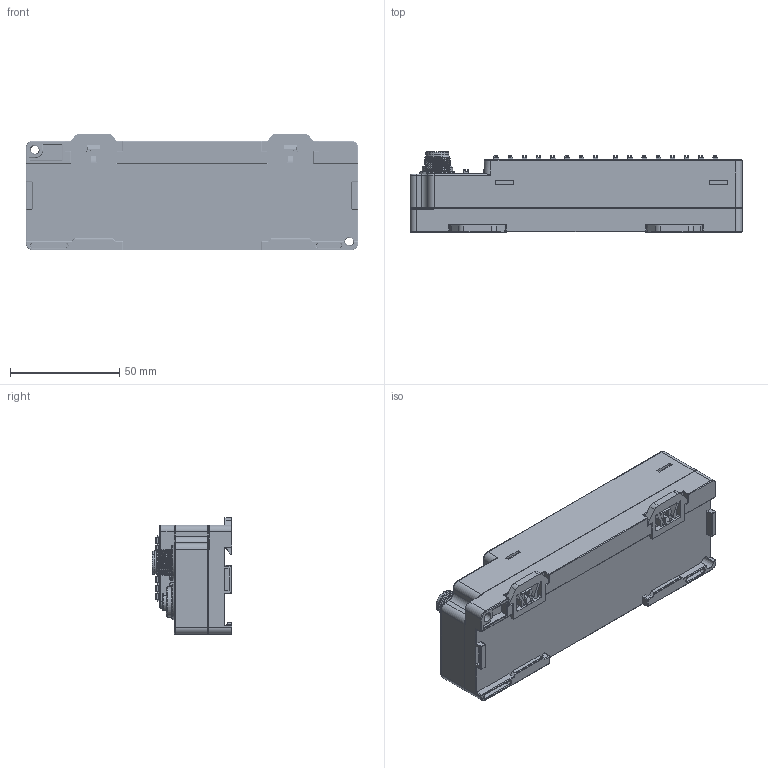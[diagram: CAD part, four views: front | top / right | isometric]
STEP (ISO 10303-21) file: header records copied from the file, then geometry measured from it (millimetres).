
FILE_DESCRIPTION((''),'2;1');
FILE_NAME('IOL5B','2026-03-11T15:00:20',('Administrator'),(''),'CREO PARAMETRIC BY PTC INC, 2022073','CREO PARAMETRIC BY PTC INC, 2022073','');
FILE_SCHEMA(('AUTOMOTIVE_DESIGN { 1 0 10303 214 1 1 1 1 }'));
Products named in the file (1): IOL5B
Bounding box: 152 x 36.6 x 53.35 mm (x, y, z)
Surface area: 50114.1 mm2 (no closed solid volume)
Topology: 0 solids, 344 shells, 4564 faces, 18633 edges, 14203 vertices
Faces by surface type: plane 2214, cylinder 1563, bspline 418, cone 247, sphere 61, torus 61
Entity records: 252356 total; most frequent: CARTESIAN_POINT 69360, ORIENTED_EDGE 29194, DIRECTION 29059, EDGE_CURVE 18352, VERTEX_POINT 14075, VECTOR 11353, LINE 11353, AXIS2_PLACEMENT_3D 8853
